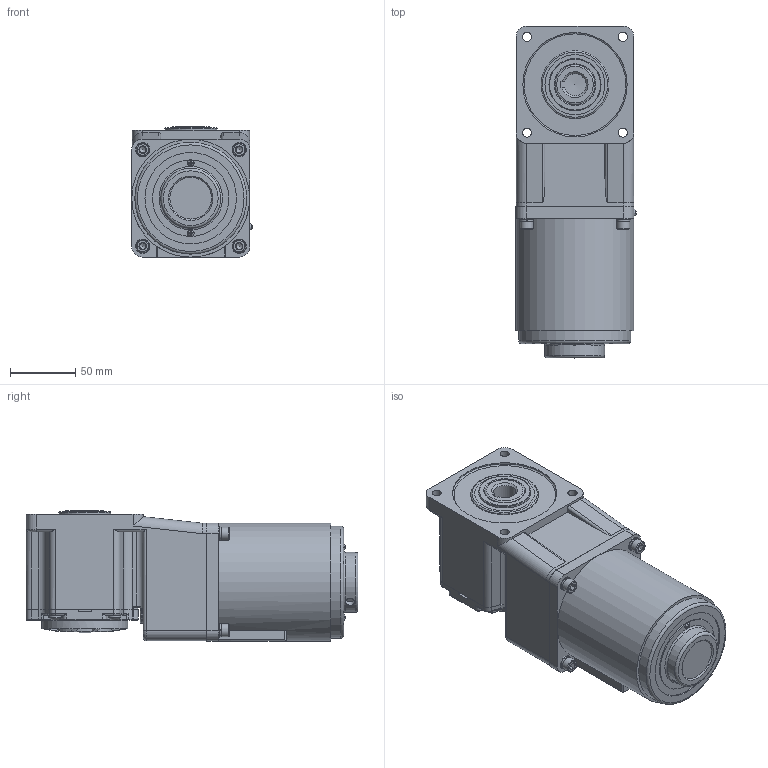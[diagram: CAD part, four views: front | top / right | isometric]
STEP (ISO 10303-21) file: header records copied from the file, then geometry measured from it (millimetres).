
FILE_DESCRIPTION(/* description */ (''),/* implementation_level */ '2;1');
FILE_NAME(/* name */ '90+中空直角-调速-40W.stp',/* time_stamp */ '2022-09-27T10:38:19+08:00',/* author */ (''),/* organization */ (''),/* preprocessor_version */ 'ST-DEVELOPER v16.7',/* originating_system */ 'SIEMENS PLM Software NX 1899',/* authorisation */ '');
FILE_SCHEMA (('AP203_CONFIGURATION_CONTROLLED_3D_DESIGN_OF_MECHANICAL_PARTS_AND_ASSEMBLIES_MIM_LF { 1 0 10303 403 2 1 2}'));
Length unit declared in the file: millimetre
Products named in the file (1): yf1815905F60ugoh
Bounding box: 92.35 x 254.5 x 99.9 mm (x, y, z)
Volume: 1678667 mm3; surface area: 151257.9 mm2
Topology: 17 solids, 17 shells, 662 faces, 1544 edges, 938 vertices
Faces by surface type: plane 329, cylinder 206, torus 62, cone 49, sphere 10, bspline 6
Full cylindrical faces by diameter (mm): 3.3 x2, 4.5 x2, 5 x4, 5.5 x4, 5.795 x4, 6.4 x4, 7 x9, 9.5 x4, 10 x4, 11 x4, 30 x2, 40 x1, 46 x1, 47 x1, 47.5 x1, 52 x1, 58.6 x1, 60 x1, 60.5 x1, 66 x1, 67 x1, 70.2 x1, 76.4 x1, 80 x1, 85.8 x1, 86 x1, 86.4 x1, 90.4 x1
Entity records: 19744 total; most frequent: CARTESIAN_POINT 4051, DIRECTION 3083, ORIENTED_EDGE 2728, EDGE_CURVE 1364, AXIS2_PLACEMENT_3D 1223, VERTEX_POINT 887, EDGE_LOOP 837, ADVANCED_FACE 662
